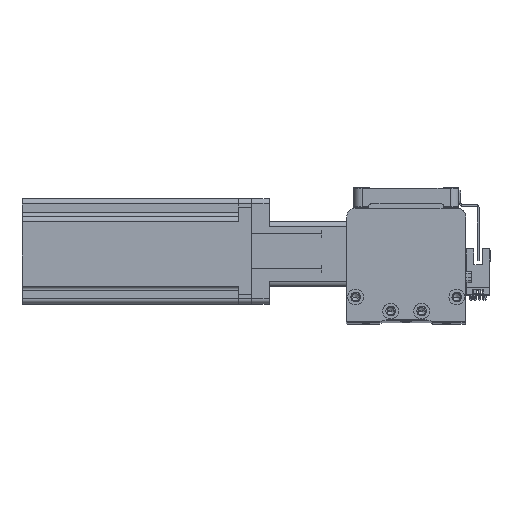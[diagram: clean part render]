
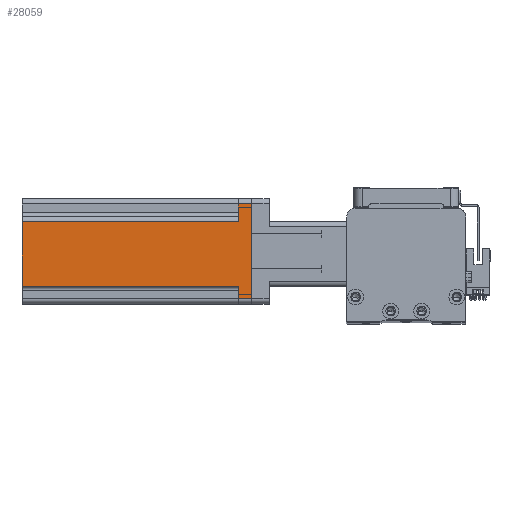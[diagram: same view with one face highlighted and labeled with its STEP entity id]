
A CAD part, top view. The second image highlights one B-rep face of the part: STEP entity #28059.
In plain terms, the highlighted planar face has unit normal (0, 0, 1) as drawn and (-1, 0, 0) by its records, which use the part's own axes.
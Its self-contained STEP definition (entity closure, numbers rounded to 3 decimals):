
#104 = CARTESIAN_POINT ( 'NONE',  ( -30., -17., 130.7 ) ) ;
#1810 = CARTESIAN_POINT ( 'NONE',  ( -30., 20., 7.5 ) ) ;
#1856 = LINE ( 'NONE', #30235, #9567 ) ;
#1903 = VECTOR ( 'NONE', #39103, 1000. ) ;
#1906 = PLANE ( 'NONE',  #9218 ) ;
#2455 = EDGE_CURVE ( 'NONE', #26870, #37682, #20817, .T. ) ;
#2891 = CARTESIAN_POINT ( 'NONE',  ( -30., -17., 7.5 ) ) ;
#2984 = LINE ( 'NONE', #3273, #1903 ) ;
#3273 = CARTESIAN_POINT ( 'NONE',  ( -30., -30., 130.7 ) ) ;
#3372 = ORIENTED_EDGE ( 'NONE', *, *, #42144, .T. ) ;
#5176 = CARTESIAN_POINT ( 'NONE',  ( -30., 27., 7.5 ) ) ;
#6228 = DIRECTION ( 'NONE',  ( 0., 0., -1. ) ) ;
#6314 = VECTOR ( 'NONE', #14823, 1000. ) ;
#8252 = ORIENTED_EDGE ( 'NONE', *, *, #37063, .T. ) ;
#8640 = CARTESIAN_POINT ( 'NONE',  ( -30., 27., 130.7 ) ) ;
#8643 = DIRECTION ( 'NONE',  ( 1., 0., 0. ) ) ;
#9218 = AXIS2_PLACEMENT_3D ( 'NONE', #28306, #8643, #31608 ) ;
#9567 = VECTOR ( 'NONE', #17165, 1000. ) ;
#9857 = DIRECTION ( 'NONE',  ( 0., 0., 1. ) ) ;
#9870 = EDGE_CURVE ( 'NONE', #40783, #24184, #32461, .T. ) ;
#10953 = ORIENTED_EDGE ( 'NONE', *, *, #9870, .F. ) ;
#11514 = CARTESIAN_POINT ( 'NONE',  ( -30., 20., 130.7 ) ) ;
#12460 = FACE_OUTER_BOUND ( 'NONE', #42188, .T. ) ;
#12867 = LINE ( 'NONE', #23491, #22640 ) ;
#14424 = VECTOR ( 'NONE', #32971, 1000. ) ;
#14823 = DIRECTION ( 'NONE',  ( 0., 0., 1. ) ) ;
#16586 = CARTESIAN_POINT ( 'NONE',  ( -30., -30., 0. ) ) ;
#17026 = EDGE_CURVE ( 'NONE', #24184, #24124, #2984, .T. ) ;
#17165 = DIRECTION ( 'NONE',  ( 0., -1., 0. ) ) ;
#19189 = ORIENTED_EDGE ( 'NONE', *, *, #2455, .T. ) ;
#20594 = LINE ( 'NONE', #16586, #38055 ) ;
#20697 = VERTEX_POINT ( 'NONE', #2891 ) ;
#20817 = LINE ( 'NONE', #8640, #22900 ) ;
#21421 = VECTOR ( 'NONE', #9857, 1000. ) ;
#21454 = CARTESIAN_POINT ( 'NONE',  ( -30., -27., 0. ) ) ;
#22640 = VECTOR ( 'NONE', #26774, 1000. ) ;
#22900 = VECTOR ( 'NONE', #6228, 1000. ) ;
#23476 = CARTESIAN_POINT ( 'NONE',  ( -30., 27., 0. ) ) ;
#23491 = CARTESIAN_POINT ( 'NONE',  ( -30., 30., 7.5 ) ) ;
#24124 = VERTEX_POINT ( 'NONE', #37479 ) ;
#24184 = VERTEX_POINT ( 'NONE', #11514 ) ;
#26292 = LINE ( 'NONE', #104, #14424 ) ;
#26451 = ORIENTED_EDGE ( 'NONE', *, *, #40092, .F. ) ;
#26774 = DIRECTION ( 'NONE',  ( 0., 1., 0. ) ) ;
#26870 = VERTEX_POINT ( 'NONE', #5176 ) ;
#27400 = VERTEX_POINT ( 'NONE', #21454 ) ;
#28059 = ADVANCED_FACE ( 'NONE', ( #12460 ), #1906, .F. ) ;
#28306 = CARTESIAN_POINT ( 'NONE',  ( -30., -30., 130.7 ) ) ;
#29554 = CARTESIAN_POINT ( 'NONE',  ( -30., -27., 130.7 ) ) ;
#30235 = CARTESIAN_POINT ( 'NONE',  ( -30., -30., 7.5 ) ) ;
#30334 = ORIENTED_EDGE ( 'NONE', *, *, #17026, .F. ) ;
#31608 = DIRECTION ( 'NONE',  ( 0., 0., -1. ) ) ;
#32433 = EDGE_CURVE ( 'NONE', #27400, #38127, #38898, .T. ) ;
#32461 = LINE ( 'NONE', #1810, #6314 ) ;
#32971 = DIRECTION ( 'NONE',  ( 0., 0., 1. ) ) ;
#33881 = CARTESIAN_POINT ( 'NONE',  ( -30., 20., 7.5 ) ) ;
#35418 = EDGE_CURVE ( 'NONE', #40783, #26870, #12867, .T. ) ;
#35769 = CARTESIAN_POINT ( 'NONE',  ( -30., -27., 7.5 ) ) ;
#37063 = EDGE_CURVE ( 'NONE', #20697, #24124, #26292, .T. ) ;
#37479 = CARTESIAN_POINT ( 'NONE',  ( -30., -17., 130.7 ) ) ;
#37682 = VERTEX_POINT ( 'NONE', #23476 ) ;
#38055 = VECTOR ( 'NONE', #38801, 1000. ) ;
#38127 = VERTEX_POINT ( 'NONE', #35769 ) ;
#38801 = DIRECTION ( 'NONE',  ( 0., -1., 0. ) ) ;
#38886 = ORIENTED_EDGE ( 'NONE', *, *, #35418, .T. ) ;
#38898 = LINE ( 'NONE', #29554, #21421 ) ;
#39103 = DIRECTION ( 'NONE',  ( 0., -1., 0. ) ) ;
#40092 = EDGE_CURVE ( 'NONE', #20697, #38127, #1856, .T. ) ;
#40783 = VERTEX_POINT ( 'NONE', #33881 ) ;
#42110 = ORIENTED_EDGE ( 'NONE', *, *, #32433, .T. ) ;
#42144 = EDGE_CURVE ( 'NONE', #37682, #27400, #20594, .T. ) ;
#42188 = EDGE_LOOP ( 'NONE', ( #26451, #8252, #30334, #10953, #38886, #19189, #3372, #42110 ) ) ;
